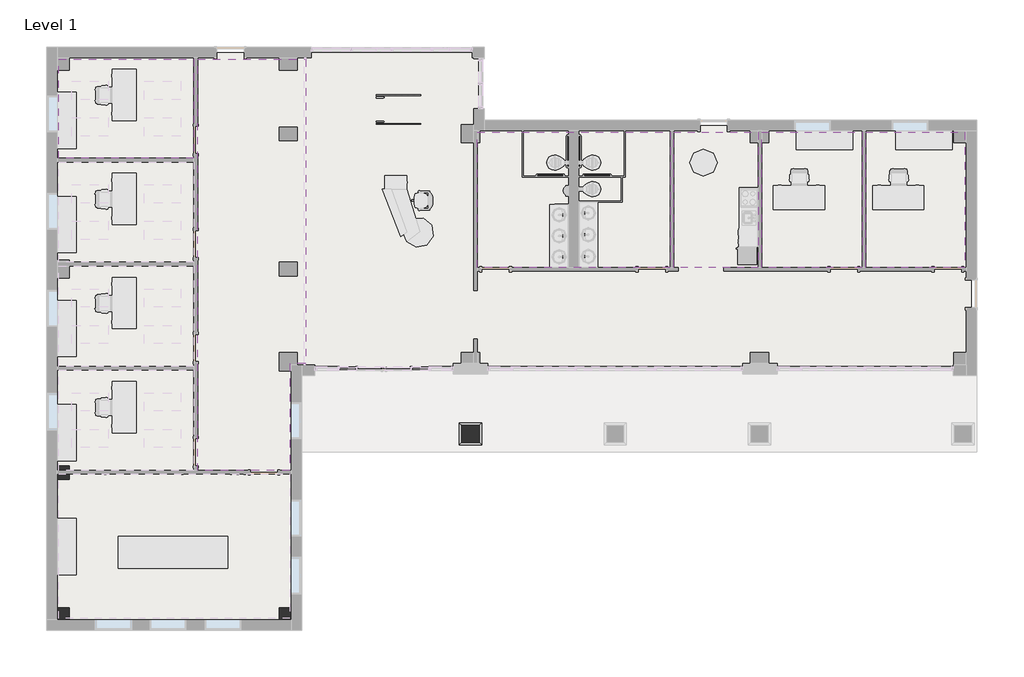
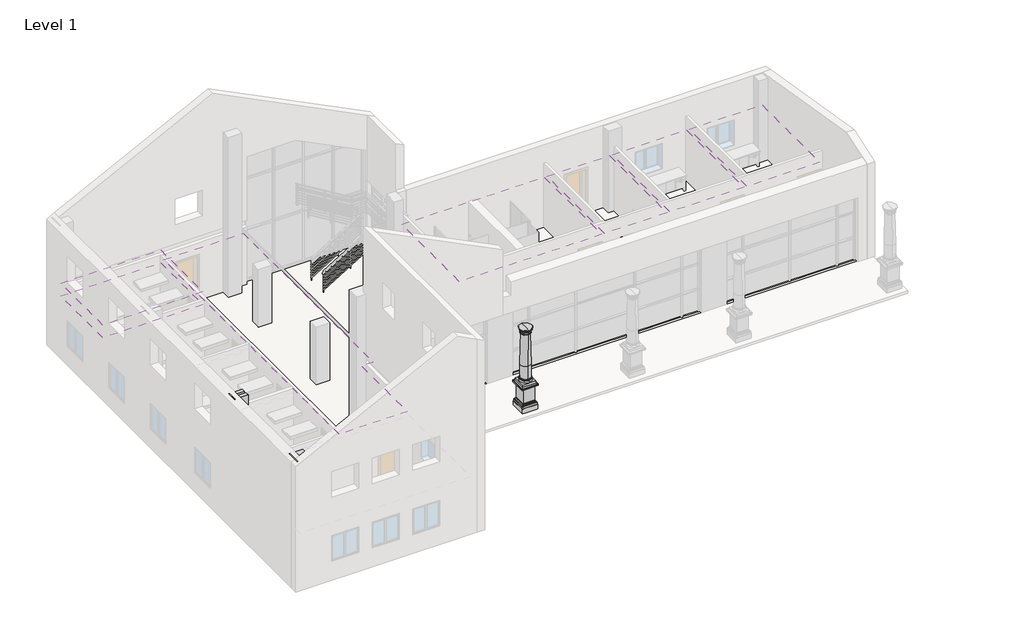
# One storey, part 4 of 8: 7 coverings, 4 columns, 1 slab.
"""IFC4 building model written with IfcOpenShell, lengths in millimetres."""

from ifc_helpers import new_model, si_unit, point, frame, origin, place, context, project, spatial, polyline, circle_curve, ellipse_curve, trimmed, outline, extrude, faceted_brep, element, save
from ifc_brep_helpers import plane_surface, cylinder_surface, revolved_surface, advanced_brep

model = new_model("IFC4")

# Units and contexts
model_context = context("Model", 3, world=origin())
ifc_project = project(units=[si_unit("LENGTHUNIT", "METRE", prefix="MILLI")], contexts=[model_context])

# Site, building, storey
site = spatial("IfcSite", under=ifc_project)
building = spatial("IfcBuilding", under=site)
storey = spatial("IfcBuildingStorey", under=building, Name="Level 1", Elevation=0.0)

# Columns
placement = place(None, origin())
element("IfcColumn", 1, ObjectType="Doric Column : 16'  Height (10 2/3 x Dia.)", at=placement, inside=storey, context=model_context, shape_type="SolidModel", body=[
    extrude(outline(polyline([(525.9983448, -1720.0769576), (525.9983448, -2297.9269576), (-51.8516552, -2297.9269576), (-51.8516552, -1720.0769576), (525.9983448, -1720.0769576)])), frame((0.0, 0.0, 1117.6), z_axis=(0.0, 0.0, 1.0), x_axis=(1.0, 0.0, 0.0)), (0.0, 0.0, 1.0), 107.95),
    faceted_brep([(8.4733448, -2237.6019576, 1117.6), (-134.4016552, -2380.4769576, 1117.6), (608.5483448, -2380.4769576, 1117.6), (465.6733448, -2237.6019576, 1117.6), (8.4733448, -2237.6019576, 1003.3), (465.6733448, -2237.6019576, 1003.3), (-62.8095723, -2308.8848746, 1003.3), (536.9562619, -2308.8848746, 1003.3), (-96.3016552, -2342.3769576, 1028.7), (570.4483448, -2342.3769576, 1028.7), (-121.7016552, -2367.7769576, 1028.7), (595.8483448, -2367.7769576, 1028.7), (-121.7016552, -2367.7769576, 1092.2), (595.8483448, -2367.7769576, 1092.2), (-134.4016552, -2380.4769576, 1092.2), (608.5483448, -2380.4769576, 1092.2), (608.5483448, -1637.5269576, 1117.6), (465.6733448, -1780.4019576, 1117.6), (465.6733448, -1780.4019576, 1003.3), (536.9562619, -1709.1190405, 1003.3), (570.4483448, -1675.6269576, 1028.7), (595.8483448, -1650.2269576, 1028.7), (595.8483448, -1650.2269576, 1092.2), (608.5483448, -1637.5269576, 1092.2), (-134.4016552, -1637.5269576, 1117.6), (8.4733448, -1780.4019576, 1117.6), (8.4733448, -1780.4019576, 1003.3), (-62.8095723, -1709.1190405, 1003.3), (-96.3016552, -1675.6269576, 1028.7), (-121.7016552, -1650.2269576, 1028.7), (-121.7016552, -1650.2269576, 1092.2), (-134.4016552, -1637.5269576, 1092.2)], [[[0, 1, 2, 3]], [[4, 0, 3, 5]], [[6, 4, 5, 7]], [[8, 6, 7, 9]], [[10, 8, 9, 11]], [[12, 10, 11, 13]], [[14, 12, 13, 15]], [[1, 14, 15, 2]], [[3, 2, 16, 17]], [[5, 3, 17, 18]], [[7, 5, 18, 19]], [[9, 7, 19, 20]], [[11, 9, 20, 21]], [[13, 11, 21, 22]], [[15, 13, 22, 23]], [[2, 15, 23, 16]], [[17, 16, 24, 25]], [[18, 17, 25, 26]], [[19, 18, 26, 27]], [[20, 19, 27, 28]], [[21, 20, 28, 29]], [[22, 21, 29, 30]], [[23, 22, 30, 31]], [[16, 23, 31, 24]], [[25, 24, 1, 0]], [[26, 25, 0, 4]], [[27, 26, 4, 6]], [[28, 27, 6, 8]], [[29, 28, 8, 10]], [[30, 29, 10, 12]], [[31, 30, 12, 14]], [[24, 31, 14, 1]]]),
    advanced_brep(
    [(237.0733448, -2256.6519576, 1358.9), (237.0733448, -1761.3519576, 1358.9), (237.0733448, -1780.4019576, 1377.95), (237.0733448, -2237.6019576, 1377.95), (237.0733448, -1780.4019576, 1989.5041667), (237.0733448, -2237.6019576, 1989.5041667), (237.0733448, -2256.6519576, 1339.85), (237.0733448, -1761.3519576, 1339.85), (237.0733448, -2256.6519576, 1308.1), (237.0733448, -1761.3519576, 1308.1), (237.0733448, -2256.6519576, 1225.55), (237.0733448, -1761.3519576, 1225.55), (237.0733448, -2009.0019576, 1225.55), (237.0733448, -1808.9769576, 3479.3125), (237.0733448, -2209.0269576, 3479.3125), (237.0733448, -2301.1019576, 3714.2625601), (237.0733448, -1716.9019576, 3714.2625601), (237.0733448, -1716.9019576, 3733.3125), (237.0733448, -2301.1019576, 3733.3125), (237.0733448, -2009.0019576, 3733.3125), (237.0733448, -2282.0518974, 3695.2125), (237.0733448, -1735.9520177, 3695.2125), (237.0733448, -2278.8769576, 3695.2125), (237.0733448, -1739.1269576, 3695.2125), (237.0733448, -2278.8769576, 3644.4125), (237.0733448, -1739.1269576, 3644.4125), (237.0733448, -2272.5269576, 3644.4125), (237.0733448, -1745.4769576, 3644.4125), (237.0733448, -2228.0769576, 3599.9625), (237.0733448, -1789.9269576, 3599.9625), (237.0733448, -2228.0769576, 3580.9125), (237.0733448, -1789.9269576, 3580.9125), (237.0733448, -2209.0269576, 3580.9125), (237.0733448, -1808.9769576, 3580.9125), (237.0733448, -2209.0269576, 3498.3625), (237.0733448, -1808.9769576, 3498.3625), (237.0733448, -2228.0769576, 3498.3625), (237.0733448, -1789.9269576, 3498.3625), (237.0733448, -2228.0769576, 3479.3125), (237.0733448, -1789.9269576, 3479.3125)],
    [
        (0, 1, circle_curve(frame((237.0733448, -2009.0019576, 1358.9), z_axis=(0.0, 0.0, 1.0), x_axis=(0.0, 1.0, 0.0)), 247.65)),
        (1, 2, circle_curve(frame((237.0733448, -1761.3519576, 1377.95), z_axis=(-1.0, 0.0, 0.0), x_axis=(0.0, -1.0, 0.0)), 19.05)),
        (2, 3, circle_curve(frame((237.0733448, -2009.0019576, 1377.95), z_axis=(0.0, 0.0, -1.0), x_axis=(0.0, 1.0, 0.0)), 228.6)),
        (3, 0, circle_curve(frame((237.0733448, -2256.6519576, 1377.95), z_axis=(-1.0, 0.0, 0.0), x_axis=(0.0, 1.0, 0.0)), 19.05)),
        (2, 4),
        (4, 5, circle_curve(frame((237.0733448, -2009.0019576, 1989.5041667), z_axis=(0.0, 0.0, -1.0), x_axis=(0.0, 1.0, 0.0)), 228.6)),
        (5, 3),
        (2, 3, circle_curve(frame((237.0733448, -2009.0019576, 1377.95), z_axis=(0.0, 0.0, 1.0), x_axis=(0.0, 1.0, 0.0)), 228.6)),
        (5, 4, circle_curve(frame((237.0733448, -2009.0019576, 1989.5041667), z_axis=(0.0, 0.0, -1.0), x_axis=(0.0, 1.0, 0.0)), 228.6)),
        (1, 0, circle_curve(frame((237.0733448, -2009.0019576, 1358.9), z_axis=(0.0, 0.0, 1.0), x_axis=(0.0, 1.0, 0.0)), 247.65)),
        (6, 7, circle_curve(frame((237.0733448, -2009.0019576, 1339.85), z_axis=(0.0, 0.0, 1.0), x_axis=(0.0, 1.0, 0.0)), 247.65)),
        (7, 1),
        (0, 6),
        (7, 6, circle_curve(frame((237.0733448, -2009.0019576, 1339.85), z_axis=(0.0, 0.0, 1.0), x_axis=(0.0, 1.0, 0.0)), 247.65)),
        (8, 9, circle_curve(frame((237.0733448, -2009.0019576, 1308.1), z_axis=(0.0, 0.0, 1.0), x_axis=(0.0, 1.0, 0.0)), 247.65)),
        (9, 7, circle_curve(frame((237.0733448, -1761.3519576, 1323.975), z_axis=(1.0, 0.0, 0.0), x_axis=(0.0, -1.0, 0.0)), 15.875)),
        (6, 8, circle_curve(frame((237.0733448, -2256.6519576, 1323.975), z_axis=(1.0, 0.0, 0.0), x_axis=(0.0, 1.0, 0.0)), 15.875)),
        (9, 8, circle_curve(frame((237.0733448, -2009.0019576, 1308.1), z_axis=(0.0, 0.0, 1.0), x_axis=(0.0, 1.0, 0.0)), 247.65)),
        (10, 11, circle_curve(frame((237.0733448, -2009.0019576, 1225.55), z_axis=(0.0, 0.0, 1.0), x_axis=(0.0, 1.0, 0.0)), 247.65)),
        (11, 9, circle_curve(frame((237.0733448, -1761.3519576, 1266.825), z_axis=(1.0, 0.0, 0.0), x_axis=(0.0, -1.0, 0.0)), 41.275)),
        (8, 10, circle_curve(frame((237.0733448, -2256.6519576, 1266.825), z_axis=(1.0, 0.0, 0.0), x_axis=(0.0, 1.0, 0.0)), 41.275)),
        (11, 10, circle_curve(frame((237.0733448, -2009.0019576, 1225.55), z_axis=(0.0, 0.0, 1.0), x_axis=(0.0, 1.0, 0.0)), 247.65)),
        (12, 11),
        (10, 12),
        (4, 13),
        (13, 14, circle_curve(frame((237.0733448, -2009.0019576, 3479.3125), z_axis=(0.0, 0.0, -1.0), x_axis=(0.0, 1.0, 0.0)), 200.025)),
        (14, 5),
        (14, 13, circle_curve(frame((237.0733448, -2009.0019576, 3479.3125), z_axis=(0.0, 0.0, -1.0), x_axis=(0.0, 1.0, 0.0)), 200.025)),
        (15, 16, circle_curve(frame((237.0733448, -2009.0019576, 3714.2625601), z_axis=(0.0, 0.0, 1.0), x_axis=(0.0, 1.0, 0.0)), 292.1)),
        (16, 17),
        (17, 18, circle_curve(frame((237.0733448, -2009.0019576, 3733.3125), z_axis=(0.0, 0.0, -1.0), x_axis=(0.0, 1.0, 0.0)), 292.1)),
        (18, 15),
        (17, 19),
        (19, 18),
        (17, 18, circle_curve(frame((237.0733448, -2009.0019576, 3733.3125), z_axis=(0.0, 0.0, 1.0), x_axis=(0.0, 1.0, 0.0)), 292.1)),
        (16, 15, circle_curve(frame((237.0733448, -2009.0019576, 3714.2625601), z_axis=(0.0, 0.0, 1.0), x_axis=(0.0, 1.0, 0.0)), 292.1)),
        (20, 21, circle_curve(frame((237.0733448, -2009.0019576, 3695.2125), z_axis=(0.0, 0.0, 1.0), x_axis=(0.0, 1.0, 0.0)), 273.0499399)),
        (21, 16, circle_curve(frame((237.0733448, -1716.9019576, 3695.2125), z_axis=(-1.0, 0.0, 0.0), x_axis=(0.0, -1.0, 0.0)), 19.0500601)),
        (15, 20, circle_curve(frame((237.0733448, -2301.1019576, 3695.2125), z_axis=(-1.0, 0.0, 0.0), x_axis=(0.0, 1.0, 0.0)), 19.0500601)),
        (21, 20, circle_curve(frame((237.0733448, -2009.0019576, 3695.2125), z_axis=(0.0, 0.0, 1.0), x_axis=(0.0, 1.0, 0.0)), 273.0499399)),
        (22, 23, circle_curve(frame((237.0733448, -2009.0019576, 3695.2125), z_axis=(0.0, 0.0, 1.0), x_axis=(0.0, 1.0, 0.0)), 269.875)),
        (23, 21),
        (20, 22),
        (23, 22, circle_curve(frame((237.0733448, -2009.0019576, 3695.2125), z_axis=(0.0, 0.0, 1.0), x_axis=(0.0, 1.0, 0.0)), 269.875)),
        (24, 25, circle_curve(frame((237.0733448, -2009.0019576, 3644.4125), z_axis=(0.0, 0.0, 1.0), x_axis=(0.0, 1.0, 0.0)), 269.875)),
        (25, 23),
        (22, 24),
        (25, 24, circle_curve(frame((237.0733448, -2009.0019576, 3644.4125), z_axis=(0.0, 0.0, 1.0), x_axis=(0.0, 1.0, 0.0)), 269.875)),
        (26, 27, circle_curve(frame((237.0733448, -2009.0019576, 3644.4125), z_axis=(0.0, 0.0, 1.0), x_axis=(0.0, 1.0, 0.0)), 263.525)),
        (27, 25),
        (24, 26),
        (27, 26, circle_curve(frame((237.0733448, -2009.0019576, 3644.4125), z_axis=(0.0, 0.0, 1.0), x_axis=(0.0, 1.0, 0.0)), 263.525)),
        (28, 29, circle_curve(frame((237.0733448, -2009.0019576, 3599.9625), z_axis=(0.0, 0.0, 1.0), x_axis=(0.0, 1.0, 0.0)), 219.075)),
        (29, 27, circle_curve(frame((237.0733448, -1789.9269576, 3644.4125), z_axis=(1.0, 0.0, 0.0), x_axis=(0.0, -1.0, 0.0)), 44.45)),
        (26, 28, circle_curve(frame((237.0733448, -2228.0769576, 3644.4125), z_axis=(1.0, 0.0, 0.0), x_axis=(0.0, 1.0, 0.0)), 44.45)),
        (29, 28, circle_curve(frame((237.0733448, -2009.0019576, 3599.9625), z_axis=(0.0, 0.0, 1.0), x_axis=(0.0, 1.0, 0.0)), 219.075)),
        (30, 31, circle_curve(frame((237.0733448, -2009.0019576, 3580.9125), z_axis=(0.0, 0.0, 1.0), x_axis=(0.0, 1.0, 0.0)), 219.075)),
        (31, 29, circle_curve(frame((237.0733448, -1789.9269576, 3590.4375), z_axis=(1.0, 0.0, 0.0), x_axis=(0.0, -1.0, 0.0)), 9.525)),
        (28, 30, circle_curve(frame((237.0733448, -2228.0769576, 3590.4375), z_axis=(1.0, 0.0, 0.0), x_axis=(0.0, 1.0, 0.0)), 9.525)),
        (31, 30, circle_curve(frame((237.0733448, -2009.0019576, 3580.9125), z_axis=(0.0, 0.0, 1.0), x_axis=(0.0, 1.0, 0.0)), 219.075)),
        (32, 33, circle_curve(frame((237.0733448, -2009.0019576, 3580.9125), z_axis=(0.0, 0.0, 1.0), x_axis=(0.0, 1.0, 0.0)), 200.025)),
        (33, 31),
        (30, 32),
        (33, 32, circle_curve(frame((237.0733448, -2009.0019576, 3580.9125), z_axis=(0.0, 0.0, 1.0), x_axis=(0.0, 1.0, 0.0)), 200.025)),
        (34, 35, circle_curve(frame((237.0733448, -2009.0019576, 3498.3625), z_axis=(0.0, 0.0, 1.0), x_axis=(0.0, 1.0, 0.0)), 200.025)),
        (35, 33),
        (32, 34),
        (35, 34, circle_curve(frame((237.0733448, -2009.0019576, 3498.3625), z_axis=(0.0, 0.0, 1.0), x_axis=(0.0, 1.0, 0.0)), 200.025)),
        (36, 37, circle_curve(frame((237.0733448, -2009.0019576, 3498.3625), z_axis=(0.0, 0.0, 1.0), x_axis=(0.0, 1.0, 0.0)), 219.075)),
        (37, 35),
        (34, 36),
        (37, 36, circle_curve(frame((237.0733448, -2009.0019576, 3498.3625), z_axis=(0.0, 0.0, 1.0), x_axis=(0.0, 1.0, 0.0)), 219.075)),
        (38, 39, circle_curve(frame((237.0733448, -2009.0019576, 3479.3125), z_axis=(0.0, 0.0, 1.0), x_axis=(0.0, 1.0, 0.0)), 219.075)),
        (39, 37, circle_curve(frame((237.0733448, -1789.9269576, 3488.8375), z_axis=(1.0, 0.0, 0.0), x_axis=(0.0, -1.0, 0.0)), 9.525)),
        (36, 38, circle_curve(frame((237.0733448, -2228.0769576, 3488.8375), z_axis=(1.0, 0.0, 0.0), x_axis=(0.0, 1.0, 0.0)), 9.525)),
        (39, 38, circle_curve(frame((237.0733448, -2009.0019576, 3479.3125), z_axis=(0.0, 0.0, 1.0), x_axis=(0.0, 1.0, 0.0)), 219.075)),
        (13, 39),
        (38, 14),
    ],
    [
        revolved_surface(trimmed(ellipse_curve(frame((237.0733448, -1761.3519576, 1377.95), z_axis=(1.0, 0.0, 0.0), x_axis=(0.0, -1.0, 0.0)), 19.05, 19.05), [point((237.0733448, -1780.4019576, 1377.95))], [point((237.0733448, -1761.3519576, 1358.9))], True, "CARTESIAN"), (237.0733448, -2009.0019576, 3733.3125), (0.0, 0.0, -1.0)),
        cylinder_surface(frame((237.0733448, -2009.0019576, 3733.3125), z_axis=(0.0, 0.0, -1.0), x_axis=(0.0, 1.0, 0.0)), 228.6),
        cylinder_surface(frame((237.0733448, -2009.0019576, 3733.3125), z_axis=(0.0, 0.0, -1.0), x_axis=(0.0, 1.0, 0.0)), 247.65),
        revolved_surface(trimmed(ellipse_curve(frame((237.0733448, -1761.3519576, 1323.975), z_axis=(-1.0, 0.0, 0.0), x_axis=(0.0, -1.0, 0.0)), 15.875, 15.875), [point((237.0733448, -1761.3519576, 1339.85))], [point((237.0733448, -1761.3519576, 1308.1))], True, "CARTESIAN"), (237.0733448, -2009.0019576, 3733.3125), (0.0, 0.0, -1.0)),
        revolved_surface(trimmed(ellipse_curve(frame((237.0733448, -1761.3519576, 1266.825), z_axis=(-1.0, 0.0, 0.0), x_axis=(0.0, -1.0, 0.0)), 41.275, 41.275), [point((237.0733448, -1761.3519576, 1308.1))], [point((237.0733448, -1761.3519576, 1225.55))], True, "CARTESIAN"), (237.0733448, -2009.0019576, 3733.3125), (0.0, 0.0, -1.0)),
        plane_surface(frame((237.0733448, -2009.0019576, 1225.55), z_axis=(0.0, 0.0, -1.0), x_axis=(0.0, 1.0, 0.0))),
        revolved_surface(polyline([(237.0733448, -1808.9769576, 3479.3125), (237.0733448, -1780.4019576, 1989.5041667)]), (237.0733448, -2009.0019576, 3733.3125), (0.0, 0.0, -1.0)),
        cylinder_surface(frame((237.0733448, -2009.0019576, 3733.3125), z_axis=(0.0, 0.0, -1.0), x_axis=(0.0, 1.0, 0.0)), 292.1),
        plane_surface(frame((237.0733448, -2009.0019576, 3733.3125), z_axis=(0.0, 0.0, 1.0), x_axis=(0.0, 1.0, 0.0))),
        revolved_surface(trimmed(ellipse_curve(frame((237.0733448, -1716.9019576, 3695.2125), z_axis=(1.0, 0.0, 0.0), x_axis=(0.0, -1.0, 0.0)), 19.0500601, 19.0500601), [point((237.0733448, -1716.9019576, 3714.2625601))], [point((237.0733448, -1735.9520177, 3695.2125))], True, "CARTESIAN"), (237.0733448, -2009.0019576, 3733.3125), (0.0, 0.0, -1.0)),
        plane_surface(frame((237.0733448, -2009.0019576, 3695.2125), z_axis=(0.0, 0.0, -1.0), x_axis=(0.0, 1.0, 0.0))),
        cylinder_surface(frame((237.0733448, -2009.0019576, 3733.3125), z_axis=(0.0, 0.0, -1.0), x_axis=(0.0, 1.0, 0.0)), 269.875),
        plane_surface(frame((237.0733448, -2009.0019576, 3644.4125), z_axis=(0.0, 0.0, -1.0), x_axis=(0.0, 1.0, 0.0))),
        revolved_surface(trimmed(ellipse_curve(frame((237.0733448, -1789.9269576, 3644.4125), z_axis=(-1.0, 0.0, 0.0), x_axis=(0.0, -1.0, 0.0)), 44.45, 44.45), [point((237.0733448, -1745.4769576, 3644.4125))], [point((237.0733448, -1789.9269576, 3599.9625))], True, "CARTESIAN"), (237.0733448, -2009.0019576, 3733.3125), (0.0, 0.0, -1.0)),
        revolved_surface(trimmed(ellipse_curve(frame((237.0733448, -1789.9269576, 3590.4375), z_axis=(-1.0, 0.0, 0.0), x_axis=(0.0, -1.0, 0.0)), 9.525, 9.525), [point((237.0733448, -1789.9269576, 3599.9625))], [point((237.0733448, -1789.9269576, 3580.9125))], True, "CARTESIAN"), (237.0733448, -2009.0019576, 3733.3125), (0.0, 0.0, -1.0)),
        plane_surface(frame((237.0733448, -2009.0019576, 3580.9125), z_axis=(0.0, 0.0, -1.0), x_axis=(0.0, 1.0, 0.0))),
        cylinder_surface(frame((237.0733448, -2009.0019576, 3733.3125), z_axis=(0.0, 0.0, -1.0), x_axis=(0.0, 1.0, 0.0)), 200.025),
        plane_surface(frame((237.0733448, -2009.0019576, 3498.3625), z_axis=(0.0, 0.0, 1.0), x_axis=(0.0, 1.0, 0.0))),
        revolved_surface(trimmed(ellipse_curve(frame((237.0733448, -1789.9269576, 3488.8375), z_axis=(-1.0, 0.0, 0.0), x_axis=(0.0, -1.0, 0.0)), 9.525, 9.525), [point((237.0733448, -1789.9269576, 3498.3625))], [point((237.0733448, -1789.9269576, 3479.3125))], True, "CARTESIAN"), (237.0733448, -2009.0019576, 3733.3125), (0.0, 0.0, -1.0)),
        plane_surface(frame((237.0733448, -2009.0019576, 3479.3125), z_axis=(0.0, 0.0, -1.0), x_axis=(0.0, 1.0, 0.0))),
    ],
    [
        (0, [[1, 2, 3, 4]]),
        (1, [[-3, 5, 6, 7]]),
        (1, [[8, -7, 9, -5]]),
        (0, [[10, -4, -8, -2]]),
        (2, [[11, 12, -1, 13]]),
        (2, [[14, -13, -10, -12]]),
        (3, [[15, 16, -11, 17]]),
        (3, [[18, -17, -14, -16]]),
        (4, [[19, 20, -15, 21]]),
        (4, [[22, -21, -18, -20]]),
        (5, [[23, -19, 24]]),
        (5, [[-24, -22, -23]]),
        (6, [[-6, 25, 26, 27]]),
        (6, [[-9, -27, 28, -25]]),
        (7, [[29, 30, 31, 32]]),
        (8, [[-31, 33, 34]]),
        (8, [[35, -34, -33]]),
        (7, [[36, -32, -35, -30]]),
        (9, [[37, 38, -29, 39]]),
        (9, [[40, -39, -36, -38]]),
        (10, [[41, 42, -37, 43]]),
        (10, [[44, -43, -40, -42]]),
        (11, [[45, 46, -41, 47]]),
        (11, [[48, -47, -44, -46]]),
        (12, [[49, 50, -45, 51]]),
        (12, [[52, -51, -48, -50]]),
        (13, [[53, 54, -49, 55]]),
        (13, [[56, -55, -52, -54]]),
        (14, [[57, 58, -53, 59]]),
        (14, [[60, -59, -56, -58]]),
        (15, [[61, 62, -57, 63]]),
        (15, [[64, -63, -60, -62]]),
        (16, [[65, 66, -61, 67]]),
        (16, [[68, -67, -64, -66]]),
        (17, [[69, 70, -65, 71]]),
        (17, [[72, -71, -68, -70]]),
        (18, [[73, 74, -69, 75]]),
        (18, [[76, -75, -72, -74]]),
        (19, [[-26, 77, -73, 78]]),
        (19, [[-28, -78, -76, -77]]),
    ],
),
    advanced_brep(
    [(582.5184911, -1663.5568112, -101.6), (582.5184911, -1663.5568112, 127.0), (582.5184911, -2354.4471039, 127.0), (582.5184911, -2354.4471039, -101.6), (465.6733448, -1780.4019576, -101.6), (465.6733448, -2237.6019576, -101.6), (465.6733448, -1780.4019576, 317.5), (465.6733448, -2237.6019576, 317.5), (499.9684911, -1746.1068112, 317.5), (499.9684911, -2271.8971039, 317.5), (519.0184911, -1727.0568112, 298.45), (519.0184911, -2290.9471039, 298.45), (519.0184911, -1727.0568112, 279.4), (519.0184911, -2290.9471039, 279.4), (541.2434911, -1704.8318112, 257.175), (541.2434911, -2313.1721039, 257.175), (563.4684911, -1682.6068112, 234.95), (563.4684911, -2335.3971039, 234.95), (563.4684911, -1682.6068112, 215.9), (563.4684911, -2335.3971039, 215.9), (572.9934911, -1673.0818112, 215.9), (572.9934911, -2344.9221039, 215.9), (572.9934911, -1673.0818112, 127.0), (572.9934911, -2344.9221039, 127.0), (-108.3718015, -2354.4471039, 127.0), (-108.3718015, -2354.4471039, -101.6), (8.4733448, -2237.6019576, -101.6), (8.4733448, -2237.6019576, 317.5), (-25.8218015, -2271.8971039, 317.5), (-44.8718015, -2290.9471039, 298.45), (-44.8718015, -2290.9471039, 279.4), (-67.0968015, -2313.1721039, 257.175), (-89.3218015, -2335.3971039, 234.95), (-89.3218015, -2335.3971039, 215.9), (-98.8468015, -2344.9221039, 215.9), (-98.8468015, -2344.9221039, 127.0), (-108.3718015, -1663.5568112, 127.0), (-108.3718015, -1663.5568112, -101.6), (8.4733448, -1780.4019576, -101.6), (8.4733448, -1780.4019576, 317.5), (-25.8218015, -1746.1068112, 317.5), (-44.8718015, -1727.0568112, 298.45), (-44.8718015, -1727.0568112, 279.4), (-67.0968015, -1704.8318112, 257.175), (-89.3218015, -1682.6068112, 234.95), (-89.3218015, -1682.6068112, 215.9), (-98.8468015, -1673.0818112, 215.9), (-98.8468015, -1673.0818112, 127.0)],
    [
        (0, 1),
        (1, 2),
        (2, 3),
        (3, 0),
        (4, 0),
        (3, 5),
        (5, 4),
        (6, 4),
        (5, 7),
        (7, 6),
        (8, 6),
        (7, 9),
        (9, 8),
        (10, 8, ellipse_curve(frame((519.0184911, -1727.0568112, 317.5), z_axis=(-0.7071067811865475, 0.7071067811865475, 0.0), x_axis=(-0.7071067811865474, -0.7071067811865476, 0.0)), 26.9407684, 19.05)),
        (9, 11, ellipse_curve(frame((519.0184911, -2290.9471039, 317.5), z_axis=(-0.7071067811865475, -0.7071067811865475, 0.0), x_axis=(0.7071067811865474, -0.7071067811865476, 0.0)), 26.9407684, 19.05)),
        (11, 10),
        (12, 10),
        (11, 13),
        (13, 12),
        (14, 12, ellipse_curve(frame((519.0184911, -1727.0568112, 257.175), z_axis=(0.7071067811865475, -0.7071067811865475, 0.0), x_axis=(0.7071067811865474, 0.7071067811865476, 0.0)), 31.4308964, 22.225)),
        (13, 15, ellipse_curve(frame((519.0184911, -2290.9471039, 257.175), z_axis=(0.7071067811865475, 0.7071067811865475, 0.0), x_axis=(-0.7071067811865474, 0.7071067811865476, 0.0)), 31.4308964, 22.225)),
        (15, 14),
        (16, 14, ellipse_curve(frame((563.4684911, -1682.6068112, 257.175), z_axis=(-0.7071067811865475, 0.7071067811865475, 0.0), x_axis=(-0.7071067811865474, -0.7071067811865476, 0.0)), 31.4308964, 22.225)),
        (15, 17, ellipse_curve(frame((563.4684911, -2335.3971039, 257.175), z_axis=(-0.7071067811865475, -0.7071067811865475, 0.0), x_axis=(0.7071067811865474, -0.7071067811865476, 0.0)), 31.4308964, 22.225)),
        (17, 16),
        (18, 16),
        (17, 19),
        (19, 18),
        (20, 18),
        (19, 21),
        (21, 20),
        (22, 20),
        (21, 23),
        (23, 22),
        (1, 22),
        (23, 2),
        (2, 24),
        (24, 25),
        (25, 3),
        (25, 26),
        (26, 5),
        (26, 27),
        (27, 7),
        (27, 28),
        (28, 9),
        (28, 29, ellipse_curve(frame((-44.8718015, -2290.9471039, 317.5), z_axis=(-0.7071067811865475, 0.7071067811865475, 0.0), x_axis=(-0.7071067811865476, -0.7071067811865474, 0.0)), 26.9407684, 19.05)),
        (29, 11),
        (29, 30),
        (30, 13),
        (30, 31, ellipse_curve(frame((-44.8718015, -2290.9471039, 257.175), z_axis=(0.7071067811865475, -0.7071067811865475, 0.0), x_axis=(0.7071067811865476, 0.7071067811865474, 0.0)), 31.4308964, 22.225)),
        (31, 15),
        (31, 32, ellipse_curve(frame((-89.3218015, -2335.3971039, 257.175), z_axis=(-0.7071067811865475, 0.7071067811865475, 0.0), x_axis=(-0.7071067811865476, -0.7071067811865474, 0.0)), 31.4308964, 22.225)),
        (32, 17),
        (32, 33),
        (33, 19),
        (33, 34),
        (34, 21),
        (34, 35),
        (35, 23),
        (35, 24),
        (24, 36),
        (36, 37),
        (37, 25),
        (37, 38),
        (38, 26),
        (38, 39),
        (39, 27),
        (39, 40),
        (40, 28),
        (40, 41, ellipse_curve(frame((-44.8718015, -1727.0568112, 317.5), z_axis=(0.7071067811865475, 0.7071067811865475, 0.0), x_axis=(-0.7071067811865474, 0.7071067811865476, 0.0)), 26.9407684, 19.05)),
        (41, 29),
        (41, 42),
        (42, 30),
        (42, 43, ellipse_curve(frame((-44.8718015, -1727.0568112, 257.175), z_axis=(-0.7071067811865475, -0.7071067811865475, 0.0), x_axis=(0.7071067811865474, -0.7071067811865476, 0.0)), 31.4308964, 22.225)),
        (43, 31),
        (43, 44, ellipse_curve(frame((-89.3218015, -1682.6068112, 257.175), z_axis=(0.7071067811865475, 0.7071067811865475, 0.0), x_axis=(-0.7071067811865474, 0.7071067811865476, 0.0)), 31.4308964, 22.225)),
        (44, 32),
        (44, 45),
        (45, 33),
        (45, 46),
        (46, 34),
        (46, 47),
        (47, 35),
        (47, 36),
        (36, 1),
        (0, 37),
        (4, 38),
        (6, 39),
        (8, 40),
        (10, 41),
        (12, 42),
        (14, 43),
        (16, 44),
        (18, 45),
        (20, 46),
        (22, 47),
    ],
    [
        plane_surface(frame((582.5184911, -1663.5568112, 127.0), z_axis=(1.0, 0.0, 0.0), x_axis=(0.0, -1.0, 0.0))),
        plane_surface(frame((582.5184911, -1663.5568112, -101.6), z_axis=(0.0, 0.0, -1.0), x_axis=(0.0, -1.0, 0.0))),
        plane_surface(frame((465.6733448, -1780.4019576, -101.6), z_axis=(-1.0, 0.0, 0.0), x_axis=(0.0, -1.0, 0.0))),
        plane_surface(frame((465.6733448, -1780.4019576, 317.5), z_axis=(0.0, 0.0, 1.0), x_axis=(0.0, -1.0, 0.0))),
        revolved_surface(polyline([(538.0684911, -2309.9971039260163, 317.5), (538.0684911, -1708.0068111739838, 317.5)]), (519.0184911, -1650.5418844, 317.5), (0.0, -1.0, 0.0)),
        plane_surface(frame((519.0184911, -1727.0568112, 298.45), z_axis=(1.0, 0.0, 0.0), x_axis=(0.0, -1.0, 0.0))),
        cylinder_surface(frame((519.0184911, -1650.5418844, 257.175), z_axis=(0.0, 1.0, 0.0), x_axis=(1.0, 0.0, 0.0)), 22.225),
        revolved_surface(polyline([(585.6934911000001, -2357.622103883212, 257.175), (585.6934911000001, -1660.3818112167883, 257.175)]), (563.4684911, -1650.5418844, 257.175), (0.0, -1.0, 0.0)),
        plane_surface(frame((563.4684911, -1682.6068112, 234.95), z_axis=(1.0, 0.0, 0.0), x_axis=(0.0, -1.0, 0.0))),
        plane_surface(frame((563.4684911, -1682.6068112, 215.9), z_axis=(0.0, 0.0, 1.0), x_axis=(0.0, -1.0, 0.0))),
        plane_surface(frame((572.9934911, -1673.0818112, 215.9), z_axis=(1.0, 0.0, 0.0), x_axis=(0.0, -1.0, 0.0))),
        plane_surface(frame((572.9934911, -1673.0818112, 127.0), z_axis=(0.0, 0.0, 1.0), x_axis=(0.0, -1.0, 0.0))),
        plane_surface(frame((582.5184911, -2354.4471039, 127.0), z_axis=(0.0, -1.0, 0.0), x_axis=(-1.0, 0.0, 0.0))),
        plane_surface(frame((582.5184911, -2354.4471039, -101.6), z_axis=(0.0, 0.0, -1.0), x_axis=(-1.0, 0.0, 0.0))),
        plane_surface(frame((465.6733448, -2237.6019576, -101.6), z_axis=(0.0, 1.0, 0.0), x_axis=(-1.0, 0.0, 0.0))),
        plane_surface(frame((465.6733448, -2237.6019576, 317.5), z_axis=(0.0, 0.0, 1.0), x_axis=(-1.0, 0.0, 0.0))),
        revolved_surface(polyline([(-63.921801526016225, -2309.9971039, 317.5), (538.0684911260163, -2309.9971039, 317.5)]), (595.533418, -2290.9471039, 317.5), (-1.0, 0.0, 0.0)),
        plane_surface(frame((519.0184911, -2290.9471039, 298.45), z_axis=(0.0, -1.0, 0.0), x_axis=(-1.0, 0.0, 0.0))),
        cylinder_surface(frame((595.533418, -2290.9471039, 257.175), z_axis=(1.0, 0.0, 0.0), x_axis=(0.0, -1.0, 0.0)), 22.225),
        revolved_surface(polyline([(-111.54680148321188, -2357.6221038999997, 257.175), (585.6934910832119, -2357.6221038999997, 257.175)]), (595.533418, -2335.3971039, 257.175), (-1.0, 0.0, 0.0)),
        plane_surface(frame((563.4684911, -2335.3971039, 234.95), z_axis=(0.0, -1.0, 0.0), x_axis=(-1.0, 0.0, 0.0))),
        plane_surface(frame((563.4684911, -2335.3971039, 215.9), z_axis=(0.0, 0.0, 1.0), x_axis=(-1.0, 0.0, 0.0))),
        plane_surface(frame((572.9934911, -2344.9221039, 215.9), z_axis=(0.0, -1.0, 0.0), x_axis=(-1.0, 0.0, 0.0))),
        plane_surface(frame((572.9934911, -2344.9221039, 127.0), z_axis=(0.0, 0.0, 1.0), x_axis=(-1.0, 0.0, 0.0))),
        plane_surface(frame((-108.3718015, -2354.4471039, 127.0), z_axis=(-1.0, 0.0, 0.0), x_axis=(0.0, 1.0, 0.0))),
        plane_surface(frame((-108.3718015, -2354.4471039, -101.6), z_axis=(0.0, 0.0, -1.0), x_axis=(0.0, 1.0, 0.0))),
        plane_surface(frame((8.4733448, -2237.6019576, -101.6), z_axis=(1.0, 0.0, 0.0), x_axis=(0.0, 1.0, 0.0))),
        plane_surface(frame((8.4733448, -2237.6019576, 317.5), z_axis=(0.0, 0.0, 1.0), x_axis=(0.0, 1.0, 0.0))),
        revolved_surface(polyline([(-63.9218015, -1708.0068111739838, 317.5), (-63.9218015, -2309.9971039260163, 317.5)]), (-44.8718015, -2367.4620307, 317.5), (0.0, 1.0, 0.0)),
        plane_surface(frame((-44.8718015, -2290.9471039, 298.45), z_axis=(-1.0, 0.0, 0.0), x_axis=(0.0, 1.0, 0.0))),
        cylinder_surface(frame((-44.8718015, -2367.4620307, 257.175), z_axis=(0.0, -1.0, 0.0), x_axis=(-1.0, 0.0, 0.0)), 22.225),
        revolved_surface(polyline([(-111.54680150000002, -1660.3818112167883, 257.175), (-111.54680150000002, -2357.622103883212, 257.175)]), (-89.3218015, -2367.4620307, 257.175), (0.0, 1.0, 0.0)),
        plane_surface(frame((-89.3218015, -2335.3971039, 234.95), z_axis=(-1.0, 0.0, 0.0), x_axis=(0.0, 1.0, 0.0))),
        plane_surface(frame((-89.3218015, -2335.3971039, 215.9), z_axis=(0.0, 0.0, 1.0), x_axis=(0.0, 1.0, 0.0))),
        plane_surface(frame((-98.8468015, -2344.9221039, 215.9), z_axis=(-1.0, 0.0, 0.0), x_axis=(0.0, 1.0, 0.0))),
        plane_surface(frame((-98.8468015, -2344.9221039, 127.0), z_axis=(0.0, 0.0, 1.0), x_axis=(0.0, 1.0, 0.0))),
        plane_surface(frame((-108.3718015, -1663.5568112, 127.0), z_axis=(0.0, 1.0, 0.0), x_axis=(1.0, 0.0, 0.0))),
        plane_surface(frame((-108.3718015, -1663.5568112, -101.6), z_axis=(0.0, 0.0, -1.0), x_axis=(1.0, 0.0, 0.0))),
        plane_surface(frame((8.4733448, -1780.4019576, -101.6), z_axis=(0.0, -1.0, 0.0), x_axis=(1.0, 0.0, 0.0))),
        plane_surface(frame((8.4733448, -1780.4019576, 317.5), z_axis=(0.0, 0.0, 1.0), x_axis=(1.0, 0.0, 0.0))),
        revolved_surface(polyline([(538.0684911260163, -1708.0068112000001, 317.5), (-63.92180152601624, -1708.0068112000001, 317.5)]), (-121.3867283, -1727.0568112, 317.5), (1.0, 0.0, 0.0)),
        plane_surface(frame((-44.8718015, -1727.0568112, 298.45), z_axis=(0.0, 1.0, 0.0), x_axis=(1.0, 0.0, 0.0))),
        cylinder_surface(frame((-121.3867283, -1727.0568112, 257.175), z_axis=(-1.0, 0.0, 0.0), x_axis=(0.0, 1.0, 0.0)), 22.225),
        revolved_surface(polyline([(585.6934910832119, -1660.3818112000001, 257.175), (-111.54680148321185, -1660.3818112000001, 257.175)]), (-121.3867283, -1682.6068112, 257.175), (1.0, 0.0, 0.0)),
        plane_surface(frame((-89.3218015, -1682.6068112, 234.95), z_axis=(0.0, 1.0, 0.0), x_axis=(1.0, 0.0, 0.0))),
        plane_surface(frame((-89.3218015, -1682.6068112, 215.9), z_axis=(0.0, 0.0, 1.0), x_axis=(1.0, 0.0, 0.0))),
        plane_surface(frame((-98.8468015, -1673.0818112, 215.9), z_axis=(0.0, 1.0, 0.0), x_axis=(1.0, 0.0, 0.0))),
        plane_surface(frame((-98.8468015, -1673.0818112, 127.0), z_axis=(0.0, 0.0, 1.0), x_axis=(1.0, 0.0, 0.0))),
    ],
    [
        (0, [[1, 2, 3, 4]]),
        (1, [[5, -4, 6, 7]]),
        (2, [[8, -7, 9, 10]]),
        (3, [[11, -10, 12, 13]]),
        (4, [[14, -13, 15, 16]]),
        (5, [[17, -16, 18, 19]]),
        (6, [[20, -19, 21, 22]]),
        (7, [[23, -22, 24, 25]]),
        (8, [[26, -25, 27, 28]]),
        (9, [[29, -28, 30, 31]]),
        (10, [[32, -31, 33, 34]]),
        (11, [[35, -34, 36, -2]]),
        (12, [[-3, 37, 38, 39]]),
        (13, [[-6, -39, 40, 41]]),
        (14, [[-9, -41, 42, 43]]),
        (15, [[-12, -43, 44, 45]]),
        (16, [[-15, -45, 46, 47]]),
        (17, [[-18, -47, 48, 49]]),
        (18, [[-21, -49, 50, 51]]),
        (19, [[-24, -51, 52, 53]]),
        (20, [[-27, -53, 54, 55]]),
        (21, [[-30, -55, 56, 57]]),
        (22, [[-33, -57, 58, 59]]),
        (23, [[-36, -59, 60, -37]]),
        (24, [[-38, 61, 62, 63]]),
        (25, [[-40, -63, 64, 65]]),
        (26, [[-42, -65, 66, 67]]),
        (27, [[-44, -67, 68, 69]]),
        (28, [[-46, -69, 70, 71]]),
        (29, [[-48, -71, 72, 73]]),
        (30, [[-50, -73, 74, 75]]),
        (31, [[-52, -75, 76, 77]]),
        (32, [[-54, -77, 78, 79]]),
        (33, [[-56, -79, 80, 81]]),
        (34, [[-58, -81, 82, 83]]),
        (35, [[-60, -83, 84, -61]]),
        (36, [[-62, 85, -1, 86]]),
        (37, [[-64, -86, -5, 87]]),
        (38, [[-66, -87, -8, 88]]),
        (39, [[-68, -88, -11, 89]]),
        (40, [[-70, -89, -14, 90]]),
        (41, [[-72, -90, -17, 91]]),
        (42, [[-74, -91, -20, 92]]),
        (43, [[-76, -92, -23, 93]]),
        (44, [[-78, -93, -26, 94]]),
        (45, [[-80, -94, -29, 95]]),
        (46, [[-82, -95, -32, 96]]),
        (47, [[-84, -96, -35, -85]]),
    ],
),
    extrude(outline(polyline([(500.5983448, -1745.4769576), (500.5983448, -2272.5269576), (-26.4516552, -2272.5269576), (-26.4516552, -1745.4769576), (500.5983448, -1745.4769576)])), frame((0.0, 0.0, 317.5), z_axis=(0.0, 0.0, 1.0), x_axis=(1.0, 0.0, 0.0)), (0.0, 0.0, 1.0), 685.8),
])
element("IfcColumn", 2, ObjectType="Rectangular Column : 18\" x 24\"", at=placement, inside=storey, context=model_context, shape_type="SweptSolid", body=[
    extrude(outline(polyline([(-3074.2144576, 6100.0), (-3074.2144576, 0.0), (-3232.9644576, 0.0), (-3232.9644576, 2755.2), (-3356.7894576, 2755.2), (-3356.7894576, 0.0), (-3531.4144576, 0.0), (-3531.4144576, 6100.0), (-3356.7894576, 6100.0), (-3356.7894576, 3060.0), (-3232.9644576, 3060.0), (-3232.9644576, 6100.0), (-3074.2144576, 6100.0)])), frame((-13583.7016552, 0.0, 0.0), z_axis=(1.0, 0.0, 0.0), x_axis=(0.0, 1.0, 0.0)), (0.0, 0.0, 1.0), 409.575),
    extrude(outline(polyline([(6100.0, -13748.8016552), (6100.0, -13783.7266552), (6082.5375, -13783.7266552), (6100.0, -13748.8016552)])), frame((0.0, -3531.4144576, 0.0), z_axis=(0.0, 1.0, 0.0), x_axis=(0.0, 0.0, 1.0)), (0.0, 0.0, 1.0), 457.2),
])
element("IfcColumn", 3, ObjectType="Rectangular Column : 24\" x 24\"", at=placement, inside=storey, context=model_context, shape_type="Brep", body=[
    faceted_brep([(-13174.1266552, -8233.5894576, 6100.0), (-13174.1266552, -7824.0144576, 6100.0), (-13583.7016552, -7824.0144576, 6100.0), (-13583.7016552, -8233.5894576, 6100.0), (-13174.1266552, -7824.0144576, 0.0), (-13174.1266552, -8233.5894576, 0.0), (-13583.7016552, -8233.5894576, 0.0), (-13583.7016552, -7824.0144576, 0.0), (-13583.7016552, -8233.5894576, 3060.0), (-13583.7016552, -8233.5894576, 2755.2)], [[[0, 1, 2, 3]], [[4, 5, 6, 7]], [[1, 4, 7, 2]], [[4, 1, 0, 5]], [[5, 0, 3, 8, 9, 6]], [[3, 2, 7, 6, 9, 8]]]),
    faceted_brep([(-13783.7266552, -8433.6144576, 6100.0), (-13783.7266552, -7824.0144576, 6100.0), (-13783.7266552, -7824.0144576, 6082.5375), (-13783.7266552, -8233.5894576, 6082.5375), (-13783.7266552, -8433.6144576, 6082.5375), (-13748.8016552, -8433.6144576, 6100.0), (-13748.8016552, -8233.5894576, 6100.0), (-13748.8016552, -7824.0144576, 6100.0)], [[[0, 1, 2, 3, 4]], [[5, 0, 4]], [[6, 5, 4, 3]], [[7, 6, 3, 2]], [[1, 0, 5, 6, 7]], [[1, 7, 2]]]),
])
element("IfcColumn", 4, ObjectType="Rectangular Column : 24\" x 24\"", at=placement, inside=storey, context=model_context, shape_type="Brep", body=[
    faceted_brep([(-6163.7266552, -7824.0144576, 6100.0), (-6163.7266552, -8233.5894576, 6100.0), (-5754.1516552, -8233.5894576, 6100.0), (-5754.1516552, -7824.0144576, 6100.0), (-6163.7266552, -8233.5894576, 0.0), (-6163.7266552, -7824.0144576, 0.0), (-5754.1516552, -7824.0144576, 0.0), (-5754.1516552, -8233.5894576, 0.0), (-5754.1516552, -8233.5894576, 2755.2), (-5754.1516552, -8233.5894576, 3060.0)], [[[0, 1, 2, 3]], [[4, 5, 6, 7]], [[5, 0, 3, 6]], [[0, 5, 4, 1]], [[2, 1, 4, 7, 8, 9]], [[3, 2, 9, 8, 7, 6]]]),
])

# Coverings
element("IfcCovering", 5, ObjectType="2' x 4' ACT System", at=placement, inside=storey, context=model_context, shape_type="SweptSolid", body=[
    extrude(outline(polyline([(-9011.7016552, 7211.1980424), (-13532.9016552, 7211.1980424), (-13532.9016552, 10517.9605424), (-9011.7016552, 10517.9605424), (-9011.7016552, 7211.1980424)])), frame((0.0, 0.0, 3048.0), z_axis=(0.0, 0.0, 1.0), x_axis=(1.0, 0.0, 0.0)), (0.0, 0.0, 1.0), 57.15),
])
element("IfcCovering", 6, ObjectType="2' x 4' ACT System", at=placement, inside=storey, context=model_context, shape_type="SweptSolid", body=[
    extrude(outline(polyline([(-9011.7016552, 10517.9605424), (-9011.7016552, 7211.1980424), (-13532.9016552, 7211.1980424), (-13532.9016552, 10517.9605424), (-9011.7016552, 10517.9605424)]), holes=[polyline([(-11881.9016552, 9778.9792924), (-13101.1016552, 9778.9792924), (-13101.1016552, 9169.3792924), (-11881.9016552, 9169.3792924), (-11881.9016552, 9778.9792924)]), polyline([(-9443.5016552, 9778.9792924), (-10662.7016552, 9778.9792924), (-10662.7016552, 9169.3792924), (-9443.5016552, 9169.3792924), (-9443.5016552, 9778.9792924)]), polyline([(-9443.5016552, 8559.7792924), (-10662.7016552, 8559.7792924), (-10662.7016552, 7950.1792924), (-9443.5016552, 7950.1792924), (-9443.5016552, 8559.7792924)]), polyline([(-11881.9016552, 8559.7792924), (-13101.1016552, 8559.7792924), (-13101.1016552, 7950.1792924), (-11881.9016552, 7950.1792924), (-11881.9016552, 8559.7792924)])]), frame((0.0, 0.0, 2438.4), z_axis=(0.0, 0.0, 1.0), x_axis=(1.0, 0.0, 0.0)), (0.0, 0.0, 1.0), 57.15),
])
element("IfcCovering", 7, ObjectType="2' x 4' ACT System", at=placement, inside=storey, context=model_context, shape_type="SweptSolid", body=[
    extrude(outline(polyline([(13324.4233448, 3558.3605424), (9971.6233448, 3558.3605424), (9971.6233448, 8079.5605424), (13324.4233448, 8079.5605424), (13324.4233448, 3558.3605424)])), frame((0.0, 0.0, 2438.4), z_axis=(0.0, 0.0, 1.0), x_axis=(1.0, 0.0, 0.0)), (0.0, 0.0, 1.0), 57.15),
])
element("IfcCovering", 8, ObjectType="2' x 4' ACT System", at=placement, inside=storey, context=model_context, shape_type="SweptSolid", body=[
    extrude(outline(polyline([(16750.2483448, 3558.3605424), (13448.2483448, 3558.3605424), (13448.2483448, 8079.5605424), (16750.2483448, 8079.5605424), (16750.2483448, 3558.3605424)])), frame((0.0, 0.0, 2438.4), z_axis=(0.0, 0.0, 1.0), x_axis=(1.0, 0.0, 0.0)), (0.0, 0.0, 1.0), 57.15),
])
element("IfcCovering", 9, ObjectType="5/8\" GWB on Mtl. Stud", at=placement, inside=storey, context=model_context, shape_type="SweptSolid", body=[
    extrude(outline(polyline([(6904.5733448, 3558.3605424), (465.6733448, 3558.3605424), (465.6733448, 8079.5605424), (6904.5733448, 8079.5605424), (6904.5733448, 3558.3605424)])), frame((0.0, 0.0, 2438.4), z_axis=(0.0, 0.0, 1.0), x_axis=(1.0, 0.0, 0.0)), (0.0, 0.0, 1.0), 107.95),
])
element("IfcCovering", 10, ObjectType="5/8\" GWB on Mtl. Stud", at=placement, inside=storey, context=model_context, shape_type="SweptSolid", body=[
    extrude(outline(polyline([(9847.7983448, 3558.3605424), (7028.3983448, 3558.3605424), (7028.3983448, 8079.5605424), (9847.7983448, 8079.5605424), (9847.7983448, 3558.3605424)])), frame((0.0, 0.0, 2438.4), z_axis=(0.0, 0.0, 1.0), x_axis=(1.0, 0.0, 0.0)), (0.0, 0.0, 1.0), 107.95),
])
element("IfcCovering", 11, ObjectType="5/8\" GWB on Mtl. Stud", at=placement, inside=storey, context=model_context, shape_type="Brep", body=[
    faceted_brep([(-5804.9516552, -3232.9644576, 2647.95), (-5804.9516552, 351.6105424, 2647.95), (-5323.9391552, 351.6105424, 2647.95), (-5273.1391552, 351.6105424, 2647.95), (-5273.1391552, 10517.9605424, 2647.95), (-5323.9391552, 10517.9605424, 2647.95), (-8887.8766552, 10517.9605424, 2647.95), (-8887.8766552, -3232.9644576, 2647.95), (-6163.7266552, 3732.9855424, 2647.95), (-5554.1266552, 3732.9855424, 2647.95), (-5554.1266552, 3275.7855424, 2647.95), (-6163.7266552, 3275.7855424, 2647.95), (-6163.7266552, 8257.3605424, 2647.95), (-5554.1266552, 8257.3605424, 2647.95), (-5554.1266552, 7800.1605424, 2647.95), (-6163.7266552, 7800.1605424, 2647.95), (-5804.9516552, 351.6105424, 2540.0), (-5804.9516552, -3232.9644576, 2540.0), (-8887.8766552, -3232.9644576, 2540.0), (-8887.8766552, 10517.9605424, 2540.0), (-5323.9391552, 10517.9605424, 2540.0), (-5273.1391552, 10517.9605424, 2540.0), (-5273.1391552, 351.6105424, 2540.0), (-5323.9391552, 351.6105424, 2540.0), (-5554.1266552, 3732.9855424, 2540.0), (-6163.7266552, 3732.9855424, 2540.0), (-6163.7266552, 3275.7855424, 2540.0), (-5554.1266552, 3275.7855424, 2540.0), (-5554.1266552, 8257.3605424, 2540.0), (-6163.7266552, 8257.3605424, 2540.0), (-6163.7266552, 7800.1605424, 2540.0), (-5554.1266552, 7800.1605424, 2540.0)], [[[0, 1, 2, 3, 4, 5, 6, 7], [8, 9, 10, 11], [12, 13, 14, 15]], [[16, 17, 18, 19, 20, 21, 22, 23], [24, 25, 26, 27], [28, 29, 30, 31]], [[1, 0, 17, 16]], [[3, 2, 1, 16, 23, 22]], [[4, 3, 22, 21]], [[6, 5, 4, 21, 20, 19]], [[7, 6, 19, 18]], [[0, 7, 18, 17]], [[24, 9, 8, 25]], [[25, 8, 11, 26]], [[26, 11, 10, 27]], [[9, 24, 27, 10]], [[28, 13, 12, 29]], [[29, 12, 15, 30]], [[30, 15, 14, 31]], [[13, 28, 31, 14]]]),
])

# Slab
element("IfcSlab", 12, ObjectType="4\" Concrete Slab", at=placement, inside=storey, context=model_context, shape_type="SweptSolid", body=[
    extrude(outline(polyline([(506.9483448, 10733.8605424), (506.9483448, 8295.4605424), (16966.1483448, 8295.4605424), (16966.1483448, 135.7105424), (518.0608448, 135.7105424), (-5589.0516552, 135.7105424), (-5589.0516552, -8398.6894576), (-13748.8016552, -8398.6894576), (-13748.8016552, 10733.8605424), (506.9483448, 10733.8605424)])), frame((0.0, 0.0, -101.6), z_axis=(0.0, 0.0, 1.0), x_axis=(1.0, 0.0, 0.0)), (0.0, 0.0, 1.0), 101.6),
])

save(model, "model.ifc")
